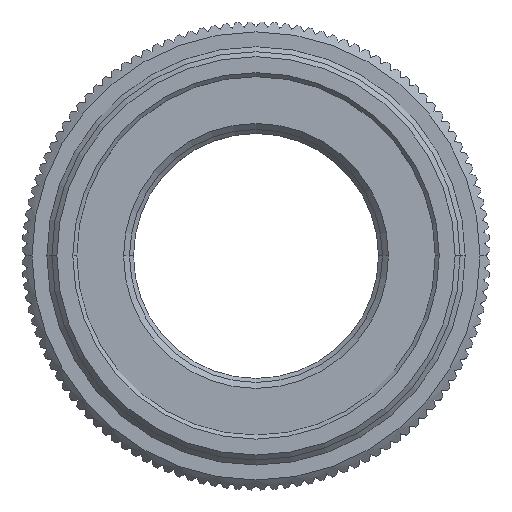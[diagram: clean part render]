
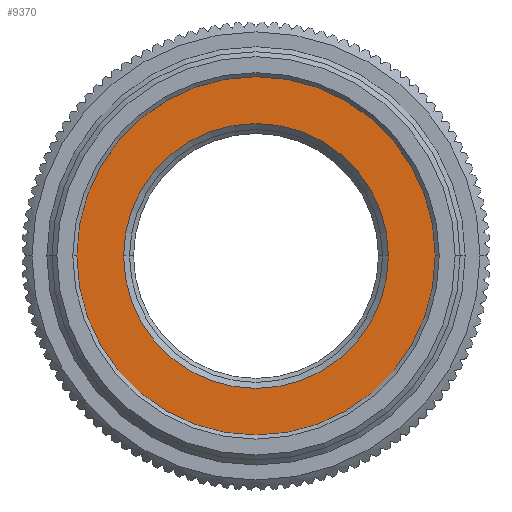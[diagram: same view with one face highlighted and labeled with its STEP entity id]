
A CAD part, top view. The second image highlights one B-rep face of the part: STEP entity #9370.
In plain terms, the highlighted planar face has unit normal (0, 0, 1).
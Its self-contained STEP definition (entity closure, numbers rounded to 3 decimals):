
#12=CARTESIAN_POINT('',(0.,0.,-12.6));
#13=DIRECTION('',(0.,0.,1.));
#14=DIRECTION('',(-1.,0.,0.));
#15=AXIS2_PLACEMENT_3D('',#12,#13,#14);
#17=CARTESIAN_POINT('',(0.,0.,-12.6));
#18=DIRECTION('',(0.,0.,1.));
#19=DIRECTION('',(1.,0.,0.));
#20=AXIS2_PLACEMENT_3D('',#17,#18,#19);
#32=CARTESIAN_POINT('',(0.,0.,-12.6));
#33=DIRECTION('',(0.,0.,-1.));
#34=DIRECTION('',(-1.,0.,0.));
#35=AXIS2_PLACEMENT_3D('',#32,#33,#34);
#37=CARTESIAN_POINT('',(0.,0.,-12.6));
#38=DIRECTION('',(0.,0.,-1.));
#39=DIRECTION('',(1.,0.,0.));
#40=AXIS2_PLACEMENT_3D('',#37,#38,#39);
#7528=CARTESIAN_POINT('',(-18.,0.,-12.6));
#7529=CARTESIAN_POINT('',(18.,0.,-12.6));
#7530=VERTEX_POINT('',#7528);
#7531=VERTEX_POINT('',#7529);
#7572=CARTESIAN_POINT('',(-13.3,0.,-12.6));
#7573=CARTESIAN_POINT('',(13.3,0.,-12.6));
#7574=VERTEX_POINT('',#7572);
#7575=VERTEX_POINT('',#7573);
#9353=CARTESIAN_POINT('',(0.,0.,-12.6));
#9354=DIRECTION('',(0.,0.,-1.));
#9355=DIRECTION('',(1.,0.,0.));
#9356=AXIS2_PLACEMENT_3D('',#9353,#9354,#9355);
#9357=PLANE('',#9356);
#9359=ORIENTED_EDGE('',*,*,#9358,.F.);
#9361=ORIENTED_EDGE('',*,*,#9360,.F.);
#9362=EDGE_LOOP('',(#9359,#9361));
#9363=FACE_OUTER_BOUND('',#9362,.F.);
#9365=ORIENTED_EDGE('',*,*,#9364,.F.);
#9367=ORIENTED_EDGE('',*,*,#9366,.F.);
#9368=EDGE_LOOP('',(#9365,#9367));
#9369=FACE_BOUND('',#9368,.F.);
#9370=ADVANCED_FACE('',(#9363,#9369),#9357,.F.);
#16=CIRCLE('',#15,18.);
#21=CIRCLE('',#20,18.);
#36=CIRCLE('',#35,13.3);
#41=CIRCLE('',#40,13.3);
#9358=EDGE_CURVE('',#7530,#7531,#16,.T.);
#9360=EDGE_CURVE('',#7531,#7530,#21,.T.);
#9364=EDGE_CURVE('',#7574,#7575,#36,.T.);
#9366=EDGE_CURVE('',#7575,#7574,#41,.T.);
